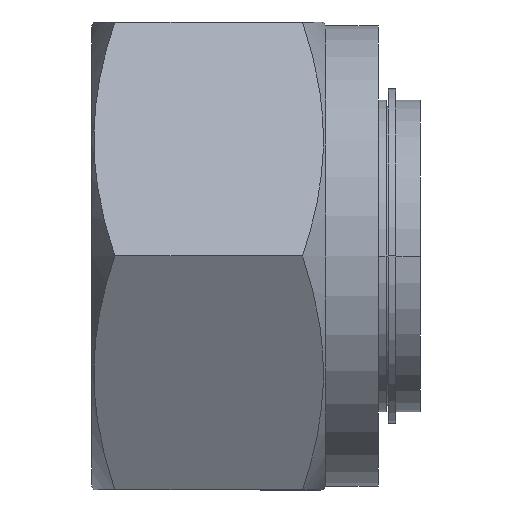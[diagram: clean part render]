
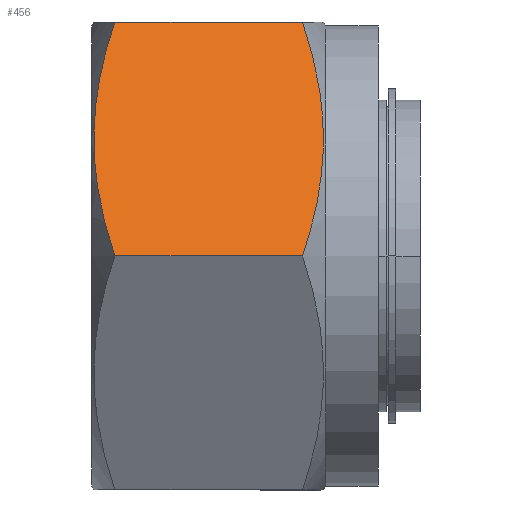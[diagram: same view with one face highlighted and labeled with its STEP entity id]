
A CAD part, front view. The second image highlights one B-rep face of the part: STEP entity #456.
In plain terms, the highlighted planar face has unit normal (0, -0.866, 0.5).
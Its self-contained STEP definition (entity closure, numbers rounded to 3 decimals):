
#3 = VERTEX_POINT ( 'NONE', #708 ) ;
#33 = VERTEX_POINT ( 'NONE', #764 ) ;
#48 = EDGE_CURVE ( 'NONE', #33, #49, #825, .T. ) ;
#49 = VERTEX_POINT ( 'NONE', #824 ) ;
#69 = VERTEX_POINT ( 'NONE', #879 ) ;
#75 = EDGE_CURVE ( 'NONE', #69, #3, #901, .T. ) ;
#451 = ORIENTED_EDGE ( 'NONE', *, *, #75, .F. ) ;
#452 = ORIENTED_EDGE ( 'NONE', *, *, #453, .F. ) ;
#453 = EDGE_CURVE ( 'NONE', #3, #33, #1615, .T. ) ;
#456 = ADVANCED_FACE ( 'NONE', ( #1611 ), #1608, .F. ) ;
#457 = ORIENTED_EDGE ( 'NONE', *, *, #48, .F. ) ;
#460 = EDGE_LOOP ( 'NONE', ( #457, #452, #451, #528 ) ) ;
#462 = EDGE_CURVE ( 'NONE', #69, #49, #1595, .T. ) ;
#528 = ORIENTED_EDGE ( 'NONE', *, *, #462, .T. ) ;
#708 = CARTESIAN_POINT ( 'NONE',  ( 12.885, -16.501, 0. ) ) ;
#764 = CARTESIAN_POINT ( 'NONE',  ( 1.415, -16.501, 0. ) ) ;
#809 = CARTESIAN_POINT ( 'NONE',  ( 1.415, -8.25, 14.29 ) ) ;
#810 = CARTESIAN_POINT ( 'NONE',  ( 1.026, -8.925, 13.122 ) ) ;
#811 = CARTESIAN_POINT ( 'NONE',  ( 0.704, -9.605, 11.944 ) ) ;
#812 = CARTESIAN_POINT ( 'NONE',  ( 0.371, -10.637, 10.156 ) ) ;
#813 = CARTESIAN_POINT ( 'NONE',  ( 0.284, -10.983, 9.556 ) ) ;
#814 = CARTESIAN_POINT ( 'NONE',  ( 0.168, -11.68, 8.349 ) ) ;
#815 = CARTESIAN_POINT ( 'NONE',  ( 0.138, -12.033, 7.739 ) ) ;
#816 = CARTESIAN_POINT ( 'NONE',  ( 0.139, -13.085, 5.916 ) ) ;
#817 = CARTESIAN_POINT ( 'NONE',  ( 0.261, -13.778, 4.717 ) ) ;
#818 = CARTESIAN_POINT ( 'NONE',  ( 0.706, -15.149, 2.342 ) ) ;
#819 = CARTESIAN_POINT ( 'NONE',  ( 1.026, -15.827, 1.167 ) ) ;
#820 = CARTESIAN_POINT ( 'NONE',  ( 1.415, -16.501, 0. ) ) ;
#824 = CARTESIAN_POINT ( 'NONE',  ( 1.415, -8.25, 14.29 ) ) ;
#825 = B_SPLINE_CURVE_WITH_KNOTS ( 'NONE', 3,
 ( #820, #819, #818, #817, #816, #815, #814, #813, #812, #811, #810, #809 ),
 .UNSPECIFIED., .F., .F.,
 ( 4, 2, 2, 2, 2, 4 ),
 ( 0., 0.004, 0.008, 0.01, 0.012, 0.017 ),
 .UNSPECIFIED. ) ;
#879 = CARTESIAN_POINT ( 'NONE',  ( 12.885, -8.25, 14.29 ) ) ;
#886 = CARTESIAN_POINT ( 'NONE',  ( 12.885, -16.501, 0. ) ) ;
#887 = CARTESIAN_POINT ( 'NONE',  ( 13.274, -15.826, 1.168 ) ) ;
#888 = CARTESIAN_POINT ( 'NONE',  ( 13.596, -15.146, 2.346 ) ) ;
#889 = CARTESIAN_POINT ( 'NONE',  ( 13.929, -14.114, 4.134 ) ) ;
#890 = CARTESIAN_POINT ( 'NONE',  ( 14.016, -13.768, 4.734 ) ) ;
#891 = CARTESIAN_POINT ( 'NONE',  ( 14.132, -13.071, 5.941 ) ) ;
#892 = CARTESIAN_POINT ( 'NONE',  ( 14.162, -12.718, 6.551 ) ) ;
#893 = CARTESIAN_POINT ( 'NONE',  ( 14.161, -11.666, 8.374 ) ) ;
#894 = CARTESIAN_POINT ( 'NONE',  ( 14.039, -10.973, 9.573 ) ) ;
#895 = CARTESIAN_POINT ( 'NONE',  ( 13.594, -9.602, 11.948 ) ) ;
#896 = CARTESIAN_POINT ( 'NONE',  ( 13.274, -8.924, 13.123 ) ) ;
#897 = CARTESIAN_POINT ( 'NONE',  ( 12.885, -8.25, 14.29 ) ) ;
#901 = B_SPLINE_CURVE_WITH_KNOTS ( 'NONE', 3,
 ( #897, #896, #895, #894, #893, #892, #891, #890, #889, #888, #887, #886 ),
 .UNSPECIFIED., .F., .F.,
 ( 4, 2, 2, 2, 2, 4 ),
 ( 0., 0.004, 0.008, 0.01, 0.012, 0.017 ),
 .UNSPECIFIED. ) ;
#1595 = LINE ( 'NONE', #1649, #1648 ) ;
#1597 = DIRECTION ( 'NONE',  ( 0., 0.5, 0.866 ) ) ;
#1606 = CARTESIAN_POINT ( 'NONE',  ( 17.5, -8.25, 14.29 ) ) ;
#1607 = DIRECTION ( 'NONE',  ( 0., 0.866, -0.5 ) ) ;
#1608 = PLANE ( 'NONE',  #1610 ) ;
#1610 = AXIS2_PLACEMENT_3D ( 'NONE', #1606, #1607, #1597 ) ;
#1611 = FACE_OUTER_BOUND ( 'NONE', #460, .T. ) ;
#1612 = DIRECTION ( 'NONE',  ( -1., 0., 0. ) ) ;
#1613 = VECTOR ( 'NONE', #1612, 1000. ) ;
#1614 = CARTESIAN_POINT ( 'NONE',  ( 17.5, -16.501, 0. ) ) ;
#1615 = LINE ( 'NONE', #1614, #1613 ) ;
#1642 = DIRECTION ( 'NONE',  ( -1., 0., 0. ) ) ;
#1648 = VECTOR ( 'NONE', #1642, 1000. ) ;
#1649 = CARTESIAN_POINT ( 'NONE',  ( 17.5, -8.25, 14.29 ) ) ;
